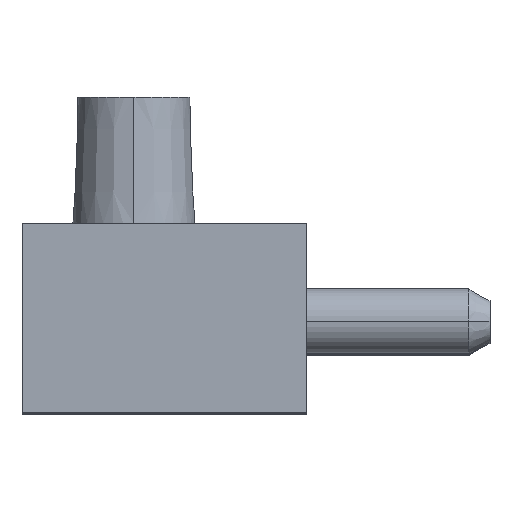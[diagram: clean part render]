
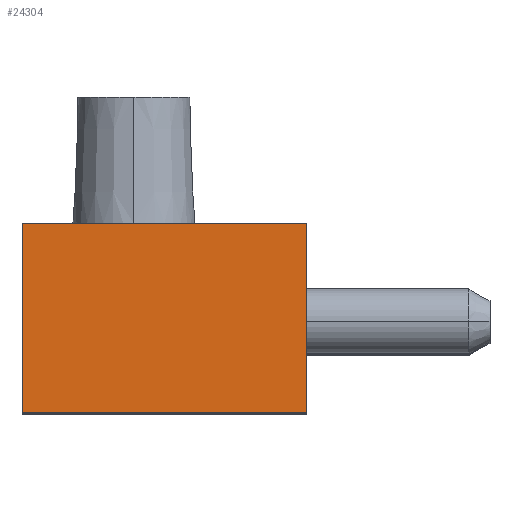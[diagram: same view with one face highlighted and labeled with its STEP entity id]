
A CAD part, top view. The second image highlights one B-rep face of the part: STEP entity #24304.
In plain terms, the highlighted planar face has unit normal (0, 0, 1).
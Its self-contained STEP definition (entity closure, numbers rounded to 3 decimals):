
#19906 = DIRECTION ( 'NONE',  ( 1., 0., 0. ) ) ;
#19907 = VECTOR ( 'NONE', #19906, 1000. ) ;
#19908 = CARTESIAN_POINT ( 'NONE',  ( 0., 0., 0. ) ) ;
#19909 = LINE ( 'NONE', #19908, #19907 ) ;
#19910 = CARTESIAN_POINT ( 'NONE',  ( 7., 0., 0. ) ) ;
#20032 = CARTESIAN_POINT ( 'NONE',  ( -7., 0., 0. ) ) ;
#20223 = CARTESIAN_POINT ( 'NONE',  ( 7., 9.3, 0. ) ) ;
#20224 = DIRECTION ( 'NONE',  ( 0., 1., 0. ) ) ;
#20225 = VECTOR ( 'NONE', #20224, 1000. ) ;
#20226 = CARTESIAN_POINT ( 'NONE',  ( 7., 4.65, 0. ) ) ;
#20227 = LINE ( 'NONE', #20226, #20225 ) ;
#20323 = DIRECTION ( 'NONE',  ( 0., -1., 0. ) ) ;
#20324 = VECTOR ( 'NONE', #20323, 1000. ) ;
#20325 = CARTESIAN_POINT ( 'NONE',  ( -7., 4.65, 0. ) ) ;
#20326 = LINE ( 'NONE', #20325, #20324 ) ;
#20327 = CARTESIAN_POINT ( 'NONE',  ( -7., 9.3, 0. ) ) ;
#20328 = DIRECTION ( 'NONE',  ( -1., 0., 0. ) ) ;
#20329 = VECTOR ( 'NONE', #20328, 1000. ) ;
#20330 = CARTESIAN_POINT ( 'NONE',  ( 0., 9.3, 0. ) ) ;
#20331 = LINE ( 'NONE', #20330, #20329 ) ;
#20332 = DIRECTION ( 'NONE',  ( 1., 0., 0. ) ) ;
#20333 = DIRECTION ( 'NONE',  ( 0., 0., 1. ) ) ;
#20334 = CARTESIAN_POINT ( 'NONE',  ( -7., 0., 0. ) ) ;
#20335 = AXIS2_PLACEMENT_3D ( 'NONE', #20334, #20333, #20332 ) ;
#20336 = PLANE ( 'NONE',  #20335 ) ;
#20337 = FACE_OUTER_BOUND ( 'NONE', #24305, .T. ) ;
#24025 = VERTEX_POINT ( 'NONE', #19910 ) ;
#24027 = EDGE_CURVE ( 'NONE', #24101, #24025, #19909, .T. ) ;
#24101 = VERTEX_POINT ( 'NONE', #20032 ) ;
#24237 = EDGE_CURVE ( 'NONE', #24025, #24238, #20227, .T. ) ;
#24238 = VERTEX_POINT ( 'NONE', #20223 ) ;
#24304 = ADVANCED_FACE ( 'NONE', ( #20337 ), #20336, .T. ) ;
#24305 = EDGE_LOOP ( 'NONE', ( #24306, #24307, #24310, #24312 ) ) ;
#24306 = ORIENTED_EDGE ( 'NONE', *, *, #24237, .T. ) ;
#24307 = ORIENTED_EDGE ( 'NONE', *, *, #24308, .T. ) ;
#24308 = EDGE_CURVE ( 'NONE', #24238, #24309, #20331, .T. ) ;
#24309 = VERTEX_POINT ( 'NONE', #20327 ) ;
#24310 = ORIENTED_EDGE ( 'NONE', *, *, #24311, .T. ) ;
#24311 = EDGE_CURVE ( 'NONE', #24309, #24101, #20326, .T. ) ;
#24312 = ORIENTED_EDGE ( 'NONE', *, *, #24027, .T. ) ;
